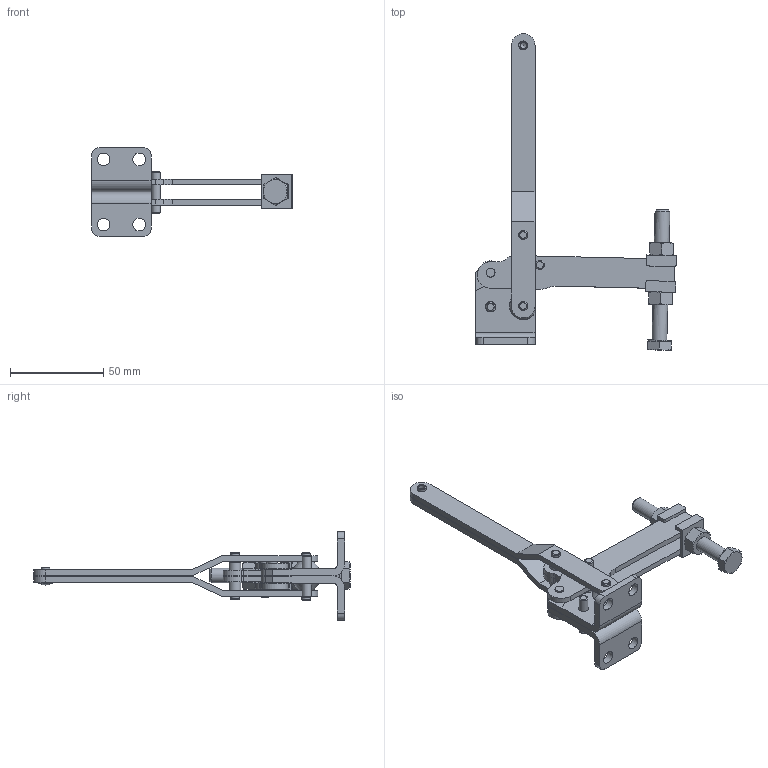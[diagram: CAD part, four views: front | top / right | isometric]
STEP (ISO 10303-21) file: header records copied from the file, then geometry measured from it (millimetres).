
FILE_DESCRIPTION(/* description */ (''),/* implementation_level */ '2;1');
FILE_NAME(/* name */ 'C:\Users\Nick\Desktop\V-200\3D\V-200.stp',/* time_stamp */ '2015-09-09T14:39:17-04:00',/* author */ ('Nick'),/* organization */ (''),/* preprocessor_version */ 'ST-DEVELOPER v16.1',/* originating_system */ 'AutoCAD Mechanical',/* authorisation */ '');
FILE_SCHEMA (('AUTOMOTIVE_DESIGN { 1 0 10303 214 3 1 1 }'));
Length unit declared in the file: inch
Products named in the file (1): Product
Bounding box: 107.45 x 169.82 x 47.65 mm (x, y, z)
Volume: 43779 mm3; surface area: 35870.7 mm2
Topology: 20 solids, 20 shells, 329 faces, 768 edges, 489 vertices
Faces by surface type: plane 145, cylinder 104, cone 40, torus 25, bspline 8, sphere 7
Full cylindrical faces by diameter (mm): 3.353 x1, 4.674 x8, 4.724 x1, 4.75 x1, 4.762 x2, 4.775 x2, 4.826 x10, 5.537 x1, 6.299 x4, 6.401 x2, 6.426 x4, 6.452 x4, 6.807 x4, 7.938 x1, 8.331 x2, 12.7 x1
Entity records: 9906 total; most frequent: CARTESIAN_POINT 2609, DIRECTION 1540, ORIENTED_EDGE 1364, EDGE_CURVE 682, AXIS2_PLACEMENT_3D 628, VERTEX_POINT 478, EDGE_LOOP 474, FACE_OUTER_BOUND 329
